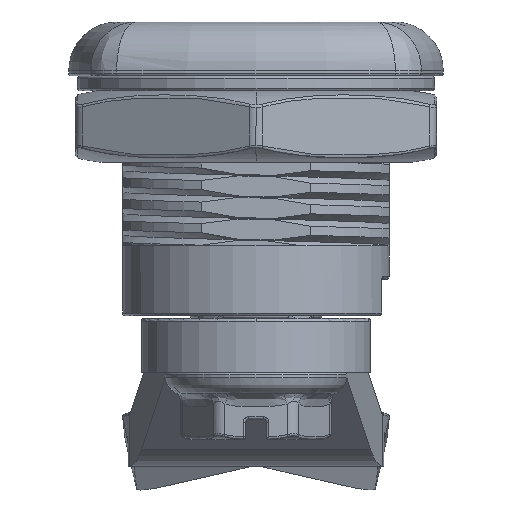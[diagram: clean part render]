
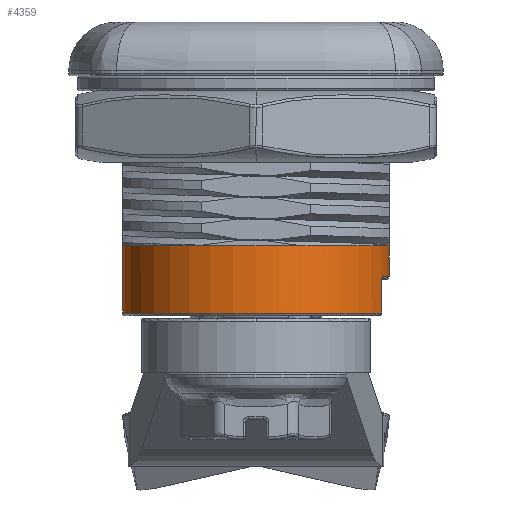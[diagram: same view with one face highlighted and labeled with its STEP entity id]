
A CAD part, front view. The second image highlights one B-rep face of the part: STEP entity #4359.
In plain terms, the highlighted cylindrical face has radius 9.9 mm (diameter 19.8 mm), a partial arc.
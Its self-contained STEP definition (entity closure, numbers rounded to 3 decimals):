
#509 = VERTEX_POINT ( 'NONE', #8970 ) ;
#557 = VERTEX_POINT ( 'NONE', #9022 ) ;
#563 = EDGE_CURVE ( 'NONE', #557, #509, #9058, .T. ) ;
#3247 = EDGE_CURVE ( 'NONE', #3253, #3323, #18713, .T. ) ;
#3253 = VERTEX_POINT ( 'NONE', #18752 ) ;
#3323 = VERTEX_POINT ( 'NONE', #18862 ) ;
#3415 = EDGE_CURVE ( 'NONE', #3431, #3253, #19089, .T. ) ;
#3431 = VERTEX_POINT ( 'NONE', #19069 ) ;
#4355 = EDGE_CURVE ( 'NONE', #4434, #557, #21489, .T. ) ;
#4356 = ORIENTED_EDGE ( 'NONE', *, *, #4429, .T. ) ;
#4357 = ORIENTED_EDGE ( 'NONE', *, *, #563, .F. ) ;
#4359 = ADVANCED_FACE ( 'NONE', ( #21488 ), #21490, .T. ) ;
#4360 = EDGE_LOOP ( 'NONE', ( #4357, #4364, #4356, #4425, #4424, #4428, #4426, #4420, #4422 ) ) ;
#4364 = ORIENTED_EDGE ( 'NONE', *, *, #4355, .F. ) ;
#4415 = VERTEX_POINT ( 'NONE', #22377 ) ;
#4417 = EDGE_CURVE ( 'NONE', #4415, #509, #22168, .T. ) ;
#4418 = VERTEX_POINT ( 'NONE', #22129 ) ;
#4419 = EDGE_CURVE ( 'NONE', #3323, #4418, #22367, .T. ) ;
#4420 = ORIENTED_EDGE ( 'NONE', *, *, #4423, .F. ) ;
#4422 = ORIENTED_EDGE ( 'NONE', *, *, #4417, .T. ) ;
#4423 = EDGE_CURVE ( 'NONE', #4415, #4418, #22000, .T. ) ;
#4424 = ORIENTED_EDGE ( 'NONE', *, *, #3415, .T. ) ;
#4425 = ORIENTED_EDGE ( 'NONE', *, *, #4427, .T. ) ;
#4426 = ORIENTED_EDGE ( 'NONE', *, *, #4419, .T. ) ;
#4427 = EDGE_CURVE ( 'NONE', #4430, #3431, #21924, .T. ) ;
#4428 = ORIENTED_EDGE ( 'NONE', *, *, #3247, .T. ) ;
#4429 = EDGE_CURVE ( 'NONE', #4434, #4430, #21955, .T. ) ;
#4430 = VERTEX_POINT ( 'NONE', #22170 ) ;
#4434 = VERTEX_POINT ( 'NONE', #22355 ) ;
#8970 = CARTESIAN_POINT ( 'NONE',  ( 9.9, 0., -18.9 ) ) ;
#9022 = CARTESIAN_POINT ( 'NONE',  ( 9.9, 0., -16.602 ) ) ;
#9055 = DIRECTION ( 'NONE',  ( 0., 0., -1. ) ) ;
#9056 = VECTOR ( 'NONE', #9055, 1000. ) ;
#9057 = CARTESIAN_POINT ( 'NONE',  ( 9.9, 0., -16.6 ) ) ;
#9058 = LINE ( 'NONE', #9057, #9056 ) ;
#18699 = DIRECTION ( 'NONE',  ( -1., 0., 0. ) ) ;
#18700 = DIRECTION ( 'NONE',  ( 0., 0., 1. ) ) ;
#18701 = CARTESIAN_POINT ( 'NONE',  ( 0., 0., -21.6 ) ) ;
#18711 = AXIS2_PLACEMENT_3D ( 'NONE', #18701, #18700, #18699 ) ;
#18713 = CIRCLE ( 'NONE', #18711, 9.9 ) ;
#18752 = CARTESIAN_POINT ( 'NONE',  ( -9.9, 0., -21.6 ) ) ;
#18862 = CARTESIAN_POINT ( 'NONE',  ( 9.309, -3.368, -21.6 ) ) ;
#19069 = CARTESIAN_POINT ( 'NONE',  ( -9.9, 0., -16.6 ) ) ;
#19086 = DIRECTION ( 'NONE',  ( 0., 0., -1. ) ) ;
#19087 = VECTOR ( 'NONE', #19086, 1000. ) ;
#19088 = CARTESIAN_POINT ( 'NONE',  ( -9.9, 0., -16.6 ) ) ;
#19089 = LINE ( 'NONE', #19088, #19087 ) ;
#21386 = CARTESIAN_POINT ( 'NONE',  ( 0., 0., -16.6 ) ) ;
#21478 = DIRECTION ( 'NONE',  ( -1., 0., 0. ) ) ;
#21480 = DIRECTION ( 'NONE',  ( 0., 0., -1. ) ) ;
#21482 = AXIS2_PLACEMENT_3D ( 'NONE', #21386, #21480, #21478 ) ;
#21485 = CARTESIAN_POINT ( 'NONE',  ( 9.9, 0., -16.602 ) ) ;
#21486 = CARTESIAN_POINT ( 'NONE',  ( 9.9, -0.05, -16.601 ) ) ;
#21487 = CARTESIAN_POINT ( 'NONE',  ( 9.899, -0.1, -16.6 ) ) ;
#21488 = FACE_OUTER_BOUND ( 'NONE', #4360, .T. ) ;
#21489 =( BOUNDED_CURVE ( )  B_SPLINE_CURVE ( 2, ( #21487, #21486, #21485 ),
 .UNSPECIFIED., .F., .F. ) 
 B_SPLINE_CURVE_WITH_KNOTS ( ( 3, 3 ),
 ( 0.984, 0.984 ),
 .UNSPECIFIED. ) 
 CURVE ( )  GEOMETRIC_REPRESENTATION_ITEM ( )  RATIONAL_B_SPLINE_CURVE ( ( 0.998, 0.999, 1. ) ) 
 REPRESENTATION_ITEM ( '' )  );
#21490 = CYLINDRICAL_SURFACE ( 'NONE', #21482, 9.9 ) ;
#21923 = AXIS2_PLACEMENT_3D ( 'NONE', #21927, #21960, #21959 ) ;
#21924 = CIRCLE ( 'NONE', #21923, 9.9 ) ;
#21927 = CARTESIAN_POINT ( 'NONE',  ( 0., 0., -16.6 ) ) ;
#21951 = DIRECTION ( 'NONE',  ( -1., 0., 0. ) ) ;
#21952 = DIRECTION ( 'NONE',  ( 0., 0., -1. ) ) ;
#21953 = CARTESIAN_POINT ( 'NONE',  ( 0., 0., -16.6 ) ) ;
#21954 = AXIS2_PLACEMENT_3D ( 'NONE', #21953, #21952, #21951 ) ;
#21955 = CIRCLE ( 'NONE', #21954, 9.9 ) ;
#21959 = DIRECTION ( 'NONE',  ( -1., 0., 0. ) ) ;
#21960 = DIRECTION ( 'NONE',  ( 0., 0., -1. ) ) ;
#21961 = CARTESIAN_POINT ( 'NONE',  ( 9.309, -3.368, -19.3 ) ) ;
#21962 = CARTESIAN_POINT ( 'NONE',  ( 9.309, -3.368, -19.19 ) ) ;
#21963 = CARTESIAN_POINT ( 'NONE',  ( 9.327, -3.32, -19.085 ) ) ;
#21964 = CARTESIAN_POINT ( 'NONE',  ( 9.38, -3.167, -18.94 ) ) ;
#21965 = CARTESIAN_POINT ( 'NONE',  ( 9.414, -3.064, -18.9 ) ) ;
#21966 = CARTESIAN_POINT ( 'NONE',  ( 9.447, -2.96, -18.9 ) ) ;
#22000 = B_SPLINE_CURVE_WITH_KNOTS ( 'NONE', 3,
 ( #21966, #21965, #21964, #21963, #21962, #21961 ),
 .UNSPECIFIED., .F., .F.,
 ( 4, 2, 4 ),
 ( 0., 0., 0.001 ),
 .UNSPECIFIED. ) ;
#22129 = CARTESIAN_POINT ( 'NONE',  ( 9.309, -3.368, -19.3 ) ) ;
#22137 = CARTESIAN_POINT ( 'NONE',  ( 0., 0., -18.9 ) ) ;
#22168 = CIRCLE ( 'NONE', #22371, 9.9 ) ;
#22170 = CARTESIAN_POINT ( 'NONE',  ( 0., -9.9, -16.6 ) ) ;
#22355 = CARTESIAN_POINT ( 'NONE',  ( 9.899, -0.1, -16.6 ) ) ;
#22364 = DIRECTION ( 'NONE',  ( 0., 0., 1. ) ) ;
#22365 = VECTOR ( 'NONE', #22364, 1000. ) ;
#22366 = CARTESIAN_POINT ( 'NONE',  ( 9.309, -3.368, -16.6 ) ) ;
#22367 = LINE ( 'NONE', #22366, #22365 ) ;
#22369 = DIRECTION ( 'NONE',  ( -1., 0., 0. ) ) ;
#22370 = DIRECTION ( 'NONE',  ( 0., 0., 1. ) ) ;
#22371 = AXIS2_PLACEMENT_3D ( 'NONE', #22137, #22370, #22369 ) ;
#22377 = CARTESIAN_POINT ( 'NONE',  ( 9.447, -2.96, -18.9 ) ) ;
